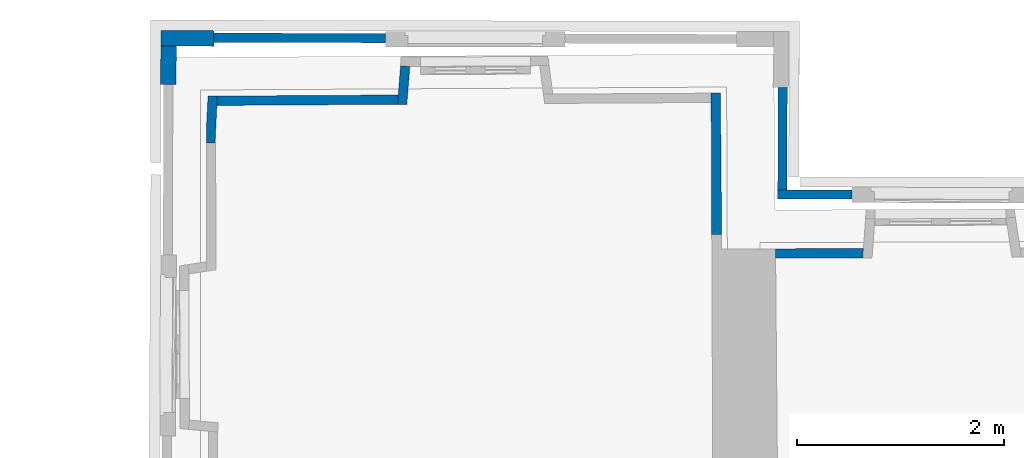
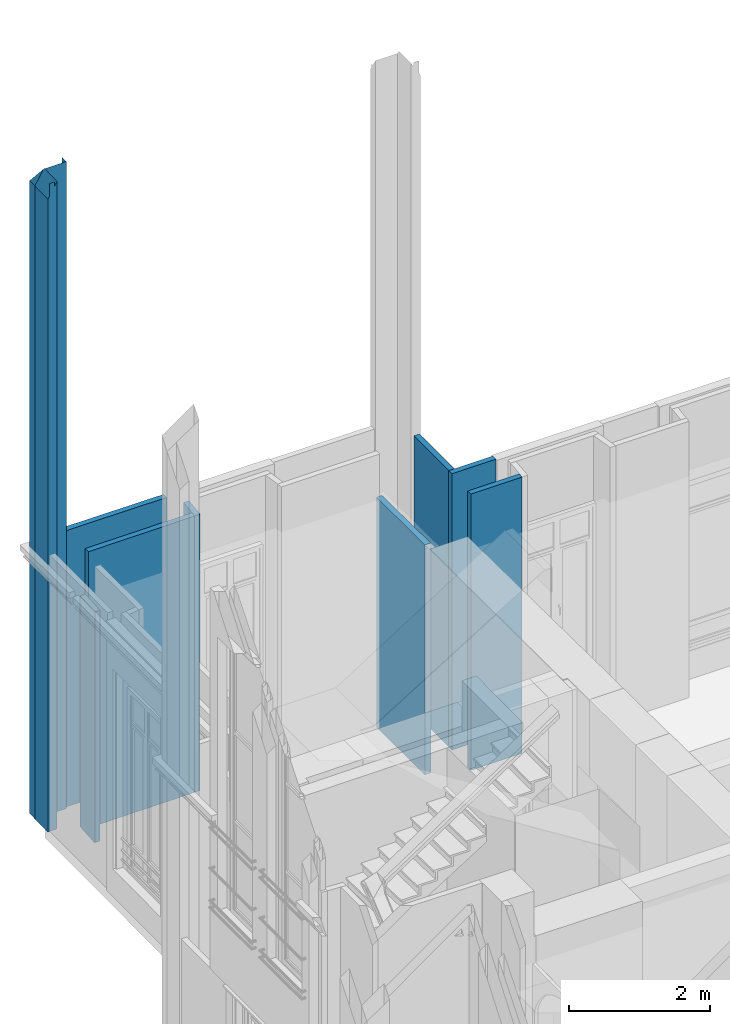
# One storey, part 20 of 97: 10 walls.
"""IFC2X3 building model written with IfcOpenShell, lengths in centimetres."""

from ifc_helpers import new_model, entity, si_unit, converted_unit, direction, frame, origin, origin_with_axes, place, context, subcontext, project, spatial, polyline, outline, extrude, clip, bounded_halfspace, material, layer, layer_set, layer_usage, type_object, element, save


model = new_model("IFC2X3")

# Units and contexts
model_context = context("Model", 3, precision=0.0001, world=origin(), true_north=direction((0.225632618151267, 0.974212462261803, 0.0)))
body_context = subcontext(model_context, "Body", "Model", "MODEL_VIEW")
ifc_project = project(units=[si_unit("LENGTHUNIT", "METRE", prefix="CENTI"), si_unit("AREAUNIT", "SQUARE_METRE", prefix="CENTI"), si_unit("VOLUMEUNIT", "CUBIC_METRE", prefix="CENTI"), converted_unit("PLANEANGLEUNIT", "DEGREE", entity("IfcRatioMeasure", 0.0174532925), si_unit("PLANEANGLEUNIT", "RADIAN"), dimensions=[0, 0, 0, 0, 0, 0, 0])], contexts=[model_context])

# Site, building, storey
site_placement = place(None, origin_with_axes())
site = spatial("IfcSite", under=ifc_project, at=site_placement, Name="Default Site", CompositionType="ELEMENT")
building_placement = place(site_placement, origin_with_axes())
building = spatial("IfcBuilding", under=site, at=building_placement, Name="Default Building", CompositionType="ELEMENT")
storey_placement = place(building_placement, origin_with_axes())
storey = spatial("IfcBuildingStorey", under=building, at=storey_placement, Name="Rez-de-chaussée", CompositionType="ELEMENT", Elevation=0.0)

# Walls
ifc_material = material(Name="<aucun>")
ifc_layer_1 = layer(ifc_material, 9.0)
ifc_layer_set_1 = layer_set([ifc_layer_1], Name="default")
ifc_layer_usage_1 = layer_usage(ifc_layer_set_1, "AXIS2", "POSITIVE", -4.5)
wall_type_1 = type_object("IfcWallType", Name="default 90", PredefinedType="NOTDEFINED", material=ifc_layer_set_1)
wall_1_placement = place(storey_placement, frame((-590.685725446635, 605.762074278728, 0.0128503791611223), z_axis=(0.0, 0.0, 1.0), x_axis=(-0.999999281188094, 0.00119900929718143, 0.0)))
element("IfcWallStandardCase", 1, at=wall_1_placement, inside=storey, type_object=wall_type_1, material=ifc_layer_usage_1, Name="Enveloppe 370249", context=body_context, shape_type="SweptSolid", body=[
    extrude(outline(polyline([(71.8533941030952, 4.50000000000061), (-0.0087640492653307, 4.4999999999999), (-0.0228247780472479, -4.4999999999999), (71.841638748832, -4.49999999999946), (71.8533941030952, 4.50000000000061)])), frame((0.0, 0.0, -2.71050543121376e-18), z_axis=(0.0, 0.0, 1.0), x_axis=(1.0, 0.0, 0.0)), (0.0, 0.0, 1.0), 477.795358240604),
])
ifc_layer_usage_2 = layer_usage(ifc_layer_set_1, "AXIS2", "POSITIVE", -4.5)
wall_2_placement = place(storey_placement, frame((-658.021901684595, 610.348691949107, 0.0128503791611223), z_axis=(0.0, 0.0, 1.0), x_axis=(0.00250515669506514, 0.999996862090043, 0.0)))
element("IfcWallStandardCase", 2, at=wall_2_placement, inside=storey, type_object=wall_type_1, material=ifc_layer_usage_2, Name="Enveloppe 370373", context=body_context, shape_type="SweptSolid", body=[
    extrude(outline(polyline([(-0.0117508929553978, 4.49821915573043), (3.90259211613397e-06, -4.50155781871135), (98.999714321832, -4.4999999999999), (99.0282439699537, 4.50000000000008), (-0.0117508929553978, 4.49821915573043)])), frame((0.0, 0.0, -2.71050543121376e-18), z_axis=(0.0, 0.0, 1.0), x_axis=(1.0, 0.0, 0.0)), (0.0, 0.0, 1.0), 477.795358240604),
])
ifc_layer_usage_3 = layer_usage(ifc_layer_set_1, "AXIS2", "POSITIVE", -4.5)
wall_3_placement = place(storey_placement, frame((-1041.53787369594, 756.996836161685, 0.0128503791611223), z_axis=(0.0, 0.0, 1.0), x_axis=(-0.999997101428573, 0.00240772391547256, 0.0)))
element("IfcWallStandardCase", 3, at=wall_3_placement, inside=storey, type_object=wall_type_1, material=ifc_layer_usage_3, Name="Enveloppe 370541", context=body_context, shape_type="SweptSolid", body=[
    extrude(outline(polyline([(166.17782327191, 4.49999999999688), (-0.0142199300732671, 4.50000000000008), (3.5527136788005e-13, -4.49999999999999), (166.130672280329, -4.50000000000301), (166.17782327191, 4.49999999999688)])), frame((0.0, 0.0, -2.71050543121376e-18), z_axis=(0.0, 0.0, 1.0), x_axis=(1.0, 0.0, 0.0)), (0.0, 0.0, 1.0), 477.795358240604),
])
ifc_layer_usage_4 = layer_usage(ifc_layer_set_1, "AXIS2", "POSITIVE", -4.5)
wall_4_placement = place(storey_placement, frame((-664.584790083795, 548.803816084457, 0.0128503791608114), z_axis=(0.0, 0.0, 1.0), x_axis=(0.9999931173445, 0.00371015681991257, 0.0)))
element("IfcWallStandardCase", 4, at=wall_4_placement, inside=storey, type_object=wall_type_1, material=ifc_layer_usage_4, Name="Enveloppe 668703", context=body_context, shape_type="Clipping", body=[
    clip(extrude(outline(polyline([(-0.045084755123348, 4.49999999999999), (-8.88178419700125e-14, -4.49999999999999), (84.2755813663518, -4.50000000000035), (84.9431993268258, 4.49999999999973), (-0.045084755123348, 4.49999999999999)])), frame((0.0, 0.0, -2.71050543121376e-18), z_axis=(0.0, 0.0, 1.0), x_axis=(1.0, 0.0, 0.0)), (0.0, 0.0, 1.0), 477.795358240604), bounded_halfspace(frame((-8.88178419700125e-14, -4.49999999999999, 399.097180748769), z_axis=(0.0, 0.0, -1.0), x_axis=(9.90570472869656e-15, 1.0, 0.0)), True, frame((-8.88178419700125e-14, -4.49999999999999, 399.097180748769), z_axis=(0.0, 0.0, 1.0), x_axis=(1.0, 0.0, 0.0)), polyline([(-0.045084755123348, 9.00000000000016), (-8.88178419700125e-14, 0.0), (0.0, 9.00000000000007), (-0.045084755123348, 9.00000000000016)]))),
])
ifc_layer_usage_5 = layer_usage(ifc_layer_set_1, "AXIS2", "POSITIVE", -4.5)
wall_5_placement = place(storey_placement, frame((-1025.64186770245, 693.424140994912, 0.0128503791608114), z_axis=(0.0, 0.0, 1.0), x_axis=(0.0804796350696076, 0.996756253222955, 0.0)))
element("IfcWallStandardCase", 5, at=wall_5_placement, inside=storey, type_object=wall_type_1, material=ifc_layer_usage_5, Name="Enveloppe 666600", context=body_context, shape_type="SweptSolid", body=[
    extrude(outline(polyline([(-0.782771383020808, 4.50000000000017), (-0.00196885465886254, -4.49999999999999), (36.651232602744, -4.49999999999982), (36.651232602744, 4.50000000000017), (-0.782771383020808, 4.50000000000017)])), frame((0.0, 0.0, -2.71050543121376e-18), z_axis=(0.0, 0.0, 1.0), x_axis=(1.0, 0.0, 0.0)), (0.0, 0.0, 1.0), 477.795358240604),
])
ifc_layer_usage_6 = layer_usage(ifc_layer_set_1, "AXIS2", "POSITIVE", -4.5)
wall_6_placement = place(storey_placement, frame((-1204.81216846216, 696.463224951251, 0.0128503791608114), z_axis=(0.0, 0.0, 1.0), x_axis=(0.999982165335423, 0.00597235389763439, 0.0)))
element("IfcWallStandardCase", 6, at=wall_6_placement, inside=storey, type_object=wall_type_1, material=ifc_layer_usage_6, Name="Enveloppe 666959", context=body_context, shape_type="Clipping", body=[
    clip(extrude(outline(polyline([(0.0, 4.50000000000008), (1.77635683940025e-13, -4.50000000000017), (174.59813877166, -4.49999999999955), (175.378941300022, 4.50000000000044), (0.0, 4.50000000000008)])), frame((0.0, 0.0, -5.42101086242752e-18), z_axis=(0.0, 0.0, 1.0), x_axis=(1.0, 0.0, 0.0)), (0.0, 0.0, 1.0), 477.795358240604), bounded_halfspace(frame((0.0, 4.50000000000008, 399.097180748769), z_axis=(0.0, 0.0, 1.0), x_axis=(1.0, -4.58279247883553e-14, 0.0)), True, frame((0.0, 4.50000000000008, 399.097180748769), z_axis=(0.0, 0.0, 1.0), x_axis=(1.0, 0.0, 0.0)), polyline([(3.5527136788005e-13, -9.00000000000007), (0.0, 8.88178419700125e-14), (0.500054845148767, 8.88178419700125e-14), (3.5527136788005e-13, -9.00000000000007)]))),
])
ifc_layer_usage_7 = layer_usage(ifc_layer_set_1, "AXIS2", "POSITIVE", -4.5)
wall_7_placement = place(storey_placement, frame((-721.270329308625, 567.250231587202, 0.0128503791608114), z_axis=(0.0, 0.0, 1.0), x_axis=(-0.00871943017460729, 0.999961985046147, 0.0)))
element("IfcWallStandardCase", 7, at=wall_7_placement, inside=storey, type_object=wall_type_1, material=ifc_layer_usage_7, Name="Enveloppe 2545", context=body_context, shape_type="SweptSolid", body=[
    extrude(outline(polyline([(136.611449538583, 4.50000000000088), (126.511649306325, 4.50000000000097), (0.0, 5.06528483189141), (8.88178419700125e-14, -4.49999999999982), (136.586725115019, -4.49999999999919), (136.611449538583, 4.50000000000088)])), origin_with_axes(), (0.0, 0.0, 1.0), 397.695358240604),
])
ifc_layer_usage_8 = layer_usage(ifc_layer_set_1, "AXIS2", "POSITIVE", -4.5)
wall_8_placement = place(storey_placement, frame((-1211.07100748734, 656.052666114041, 0.0128503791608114), z_axis=(0.0, 0.0, 1.0), x_axis=(0.0495119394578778, 0.998773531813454, 0.0)))
element("IfcWallStandardCase", 8, at=wall_8_placement, inside=storey, type_object=wall_type_1, material=ifc_layer_usage_8, Name="Enveloppe 2590", context=body_context, shape_type="SweptSolid", body=[
    extrude(outline(polyline([(10.6992295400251, 4.49999999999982), (-0.441833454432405, 3.91518555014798), (-0.000105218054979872, -4.50000000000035), (45.1916949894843, -4.50000000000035), (44.6916401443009, 4.49999999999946), (10.6992295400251, 4.49999999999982)])), origin_with_axes(), (0.0, 0.0, 1.0), 399.097180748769),
])
ifc_layer_2 = layer(ifc_material, 15.0)
ifc_layer_set_2 = layer_set([ifc_layer_2], Name="default")
ifc_layer_usage_9 = layer_usage(ifc_layer_set_2, "AXIS2", "POSITIVE", -7.5)
wall_type_2 = type_object("IfcWallType", Name="default 150", PredefinedType="NOTDEFINED", material=ifc_layer_set_2)
wall_9_placement = place(storey_placement, frame((-1207.69734952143, 756.650219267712, 0.0128503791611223), z_axis=(0.0, 0.0, 1.0), x_axis=(-0.999970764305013, 0.0076466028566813, 0.0)))
solid_1 = clip(clip(clip(clip(clip(clip(clip(clip(extrude(outline(polyline([(51.2234731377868, 7.50000000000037), (1.77635683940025e-13, 7.49999999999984), (-0.00395006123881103, 3.75358004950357), (-0.0999986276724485, 3.75284558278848), (-0.0734232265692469, -1.31976481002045), (-0.123241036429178, -4.95749996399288), (-0.0543601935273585, -4.95844326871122), (-0.0528482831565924, -5.24703090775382), (-9.72997860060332e-07, -5.24662679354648), (3.5527136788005e-13, -7.50000000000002), (51.2314853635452, -7.49999999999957), (51.2234731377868, 7.50000000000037)])), origin_with_axes(), (0.0, 0.0, 1.0), 1118.84167567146), bounded_halfspace(frame((-0.0528482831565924, -5.24703090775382, 477.795358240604), z_axis=(0.0, 0.0, 1.0), x_axis=(-0.00523892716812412, 0.999986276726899, 0.0)), True, frame((-0.0528482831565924, -5.24703090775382, 477.795358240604), z_axis=(0.0, 0.0, 1.0), x_axis=(1.0, 0.0, 0.0)), polyline([(-1.77635683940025e-13, -8.88178419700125e-14), (-0.00151191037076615, 0.288587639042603), (0.0528482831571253, 0.287843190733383), (0.0528482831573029, 0.000276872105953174), (-1.77635683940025e-13, -8.88178419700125e-14)]))), bounded_halfspace(frame((0.0, 3.75336947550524, 477.795358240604), z_axis=(0.0, 0.0, 1.0), x_axis=(6.13935985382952e-14, -1.0, 0.0)), True, frame((0.0, 3.75336947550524, 477.795358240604), z_axis=(0.0, 0.0, 1.0), x_axis=(1.0, 0.0, 0.0)), polyline([(-0.0734232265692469, -5.07313428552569), (0.0, -8.88178419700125e-14), (5.32907051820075e-13, -8.71255719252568), (-0.0543601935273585, -8.71181274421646), (-0.0734232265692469, -5.07313428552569)]))), bounded_halfspace(frame((-0.0999986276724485, 3.75284558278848, 477.795358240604), z_axis=(0.0, 0.0, 1.0), x_axis=(0.999986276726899, 0.00523892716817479, 0.0)), True, frame((-0.0999986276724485, 3.75284558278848, 477.795358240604), z_axis=(0.0, 0.0, 1.0), x_axis=(1.0, 0.0, 0.0)), polyline([(0.0, 0.0), (0.0960503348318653, 0.000503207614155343), (0.0265754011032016, -5.07261039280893), (0.0, 0.0)]))), bounded_halfspace(frame((-0.00394829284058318, 3.75334879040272, 853.897523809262), z_axis=(0.0, 0.0, 1.0), x_axis=(0.0136934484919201, 0.999906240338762, 0.0)), True, frame((-0.00394829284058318, 3.75334879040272, 853.897523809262), z_axis=(0.0, 0.0, 1.0), x_axis=(1.0, 0.0, 0.0)), polyline([(0.0, -8.88178419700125e-14), (0.00394829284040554, 0.288307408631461), (0.0, -8.88178419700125e-14)]))), bounded_halfspace(frame((-0.0543601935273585, -4.95844326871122, 853.897523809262), z_axis=(0.0, 0.0, 1.0), x_axis=(-0.999906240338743, 0.0136934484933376, 0.0)), True, frame((-0.0543601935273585, -4.95844326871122, 853.897523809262), z_axis=(0.0, 0.0, 1.0), x_axis=(1.0, 0.0, 0.0)), polyline([(-0.0688808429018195, 0.000943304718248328), (-0.0190630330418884, 3.63867845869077), (0.0, 0.0), (-0.0688808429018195, 0.000943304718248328)]))), bounded_halfspace(frame((37.1340790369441, 7.50000000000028, 1118.62691619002), z_axis=(-0.863508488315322, -0.00428678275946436, -0.504316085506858), x_axis=(0.446662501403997, -0.470841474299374, -0.760789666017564)), True, frame((37.1340790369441, 7.50000000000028, 1118.62691619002), z_axis=(0.0, 0.0, 1.0), x_axis=(1.0, 0.0, 0.0)), polyline([(0.0, -8.88178419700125e-14), (11.3642532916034, -11.9794291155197), (11.3103931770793, 0.0), (0.0, -8.88178419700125e-14)]))), bounded_halfspace(frame((48.9828103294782, -4.99013313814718, 1098.44523965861), z_axis=(-0.00305109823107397, 0.849520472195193, -0.527546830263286), x_axis=(-9.74827857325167e-15, -0.527549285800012, -0.84952442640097)), True, frame((48.9828103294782, -4.99013313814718, 1098.44523965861), z_axis=(0.0, 0.0, 1.0), x_axis=(1.0, 0.0, 0.0)), polyline([(-48.9828103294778, -2.50986686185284), (2.24867503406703, -2.50986686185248), (2.24860046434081, -2.37026197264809), (0.0, -8.88178419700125e-14), (-48.9828103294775, -0.256620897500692), (-48.9828103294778, -2.50986686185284)]))), bounded_halfspace(frame((48.4983323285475, -4.47942911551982, 1099.27045255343), z_axis=(-0.863508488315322, -0.00428678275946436, -0.504316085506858), x_axis=(0.446674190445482, -0.470797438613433, -0.760810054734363)), True, frame((48.4983323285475, -4.47942911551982, 1099.27045255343), z_axis=(0.0, 0.0, 1.0), x_axis=(1.0, 0.0, 0.0)), polyline([(-0.0538601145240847, 11.9794291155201), (1.77635683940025e-13, -8.88178419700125e-14), (0.48453570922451, -0.510703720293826), (2.73180610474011, -0.49893027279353), (2.72514080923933, 11.9794291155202), (-0.0538601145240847, 11.9794291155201)])))
element("IfcWallStandardCase", 9, at=wall_9_placement, inside=storey, type_object=wall_type_2, material=ifc_layer_usage_9, Name="Enveloppe 374149", context=body_context, shape_type="Clipping", body=[
    clip(clip(clip(clip(clip(clip(clip(clip(solid_1, bounded_halfspace(frame((1.77635683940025e-13, 7.49999999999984, 1118.84167567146), z_axis=(-0.00305109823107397, 0.849520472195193, -0.527546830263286), x_axis=(9.2374025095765e-14, -0.527549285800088, -0.849524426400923)), True, frame((1.77635683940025e-13, 7.49999999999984, 1118.84167567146), z_axis=(0.0, 0.0, 1.0), x_axis=(1.0, 0.0, 0.0)), polyline([(5.32907051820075e-13, -12.7467540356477), (48.5006398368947, -12.4926592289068), (48.4983323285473, -11.9794291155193), (37.1340790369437, 3.5527136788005e-13), (0.0, -8.88178419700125e-14), (5.32907051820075e-13, -12.7467540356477)]))), bounded_halfspace(frame((48.9828103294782, -4.99013313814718, 1098.44525264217), z_axis=(-0.863508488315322, -0.00428678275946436, -0.504316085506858), x_axis=(-0.000534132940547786, 0.999971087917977, -0.00758538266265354)), True, frame((48.9828103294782, -4.99013313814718, 1098.44525264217), z_axis=(0.0, 0.0, 1.0), x_axis=(1.0, 0.0, 0.0)), polyline([(0.0, -8.88178419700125e-14), (2.24860046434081, -2.37026197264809), (2.24732810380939, 0.0117737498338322), (0.0, -8.88178419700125e-14)]))), bounded_halfspace(frame((48.4983323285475, -4.47942911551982, 1099.27043978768), z_axis=(-0.00305109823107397, 0.849520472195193, -0.527546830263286), x_axis=(0.00237185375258, -0.5275416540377, -0.849525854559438)), True, frame((48.4983323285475, -4.47942911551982, 1099.27043978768), z_axis=(0.0, 0.0, 1.0), x_axis=(1.0, 0.0, 0.0)), polyline([(0.00230750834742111, -0.513230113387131), (0.48453570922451, -0.510703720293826), (1.77635683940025e-13, -8.88178419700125e-14), (0.00230750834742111, -0.513230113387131)]))), bounded_halfspace(frame((-0.0543601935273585, -4.95844326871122, 1098.77987993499), z_axis=(-0.00305109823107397, 0.849520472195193, -0.527546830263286), x_axis=(1.07349025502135e-13, 0.527549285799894, 0.849524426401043)), True, frame((-0.0543601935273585, -4.95844326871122, 1098.77987993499), z_axis=(0.0, 0.0, 1.0), x_axis=(1.0, 0.0, 0.0)), polyline([(0.00151191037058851, -0.288587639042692), (0.0543601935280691, -0.28831076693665), (0.0543601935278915, -0.000744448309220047), (0.0, 0.0), (0.00151191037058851, -0.288587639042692)]))), bounded_halfspace(frame((0.0, 3.75336947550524, 1112.8083926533), z_axis=(-0.00305109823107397, 0.849520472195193, -0.527546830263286), x_axis=(-0.00722471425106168, -0.52755424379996, -0.849490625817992)), True, frame((0.0, 3.75336947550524, 1112.8083926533), z_axis=(0.0, 0.0, 1.0), x_axis=(1.0, 0.0, 0.0)), polyline([(-0.0734232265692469, -5.07313428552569), (-0.0543601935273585, -8.71181274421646), (5.32907051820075e-13, -8.71255719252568), (-0.00394829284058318, -2.06851026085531e-05), (-0.0734232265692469, -5.07313428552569)]))), bounded_halfspace(frame((-0.0734232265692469, -1.31976481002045, 853.897523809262), z_axis=(0.0, 0.0, -1.0), x_axis=(0.0136934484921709, 0.999906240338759, 0.0)), True, frame((-0.0734232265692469, -1.31976481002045, 853.897523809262), z_axis=(0.0, 0.0, 1.0), x_axis=(1.0, 0.0, 0.0)), polyline([(-0.0265754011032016, 5.07261039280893), (0.0, 0.0), (0.0694749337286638, 5.07311360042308), (-0.0265754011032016, 5.07261039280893)]))), bounded_halfspace(frame((-1.77635683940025e-13, 4.04165619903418, 1113.27262721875), z_axis=(-0.00305109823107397, 0.849520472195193, -0.527546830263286), x_axis=(-9.2374025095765e-14, 0.527549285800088, 0.849524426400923)), True, frame((-1.77635683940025e-13, 4.04165619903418, 1113.27262721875), z_axis=(0.0, 0.0, 1.0), x_axis=(1.0, 0.0, 0.0)), polyline([(1.77635683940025e-13, -0.28828672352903), (0.0, 0.0), (1.77635683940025e-13, -0.28828672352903)]))), bounded_halfspace(frame((-0.0734232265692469, -1.31976481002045, 1104.63943557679), z_axis=(-0.00305109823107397, 0.849520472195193, -0.527546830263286), x_axis=(-0.00722471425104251, -0.527554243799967, -0.849490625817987)), True, frame((-0.0734232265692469, -1.31976481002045, 1104.63943557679), z_axis=(0.0, 0.0, 1.0), x_axis=(1.0, 0.0, 0.0)), polyline([(-0.0498178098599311, -3.63773515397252), (0.0190630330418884, -3.63867845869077), (0.0, 0.0), (-0.0498178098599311, -3.63773515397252)]))),
])
ifc_layer_usage_10 = layer_usage(ifc_layer_set_2, "AXIS2", "POSITIVE", -7.5)
wall_10_placement = place(storey_placement, frame((-1251.74110331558, 712.338207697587, 0.0128503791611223), z_axis=(0.0, 0.0, 1.0), x_axis=(0.00711246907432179, 0.999974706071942, 0.0)))
solid_2 = clip(clip(clip(clip(clip(clip(clip(clip(extrude(outline(polyline([(8.88178419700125e-14, 7.50000000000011), (1.75903407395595e-06, 5.46144779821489), (-0.0999954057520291, 5.46073655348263), (-0.0824590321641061, 3.63136209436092), (-0.0999997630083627, -4.42549370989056), (1.77635683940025e-13, -4.42571142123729), (8.88178419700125e-14, -7.49999999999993), (37.1435003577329, -7.50000000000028), (37.1515125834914, 7.50000000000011), (8.88178419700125e-14, 7.50000000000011)])), frame((0.0, 0.0, -2.71050543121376e-18), z_axis=(0.0, 0.0, 1.0), x_axis=(1.0, 0.0, 0.0)), (0.0, 0.0, 1.0), 1120.1788071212), bounded_halfspace(frame((-0.0999997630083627, -4.42549370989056, 477.795358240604), z_axis=(0.0, 0.0, 1.0), x_axis=(0.00217711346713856, 0.999997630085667, 0.0)), True, frame((-0.0999997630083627, -4.42549370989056, 477.795358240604), z_axis=(0.0, 0.0, 1.0), x_axis=(1.0, 0.0, 0.0)), polyline([(0.0, 0.0), (0.00192856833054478, 0.885835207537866), (0.0999997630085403, 0.886775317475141), (0.0999997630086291, -0.000217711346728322), (0.0, 0.0)]))), bounded_halfspace(frame((8.88178419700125e-14, -3.53871839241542, 477.795358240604), z_axis=(0.0, 0.0, 1.0), x_axis=(-0.999954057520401, -0.00958555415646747, 0.0)), True, frame((8.88178419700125e-14, -3.53871839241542, 477.795358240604), z_axis=(0.0, 0.0, 1.0), x_axis=(1.0, 0.0, 0.0)), polyline([(-0.0804057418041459, 8.11320335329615), (0.0, 8.11302830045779), (8.88178419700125e-14, 0.0), (-0.0137254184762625, -0.000131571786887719), (-0.0804057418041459, 8.11320335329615)]))), bounded_halfspace(frame((-0.0137254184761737, -3.53884996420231, 477.795358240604), z_axis=(0.0, 0.0, 1.0), x_axis=(-0.999954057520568, -0.00958555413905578, 0.0)), True, frame((-0.0137254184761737, -3.53884996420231, 477.795358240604), z_axis=(0.0, 0.0, 1.0), x_axis=(1.0, 0.0, 0.0)), polyline([(-0.0843457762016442, -0.000808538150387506), (-0.0687336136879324, 7.17021205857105), (0.0, 0.0), (-0.0843457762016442, -0.000808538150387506)]))), bounded_halfspace(frame((-0.0824590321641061, 3.63136209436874, 477.795358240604), z_axis=(0.0, 0.0, 1.0), x_axis=(-0.00958555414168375, 0.999954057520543, 0.0)), True, frame((-0.0824590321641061, 3.63136209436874, 477.795358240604), z_axis=(0.0, 0.0, 1.0), x_axis=(1.0, 0.0, 0.0)), polyline([(0.0, 0.0), (-0.0090410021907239, 0.943147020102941), (0.00205329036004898, 0.943122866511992), (0.0, 0.0)]))), bounded_halfspace(frame((-0.0999954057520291, 5.46073655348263, 853.897523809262), z_axis=(0.0, 0.0, 1.0), x_axis=(0.999954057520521, 0.00958555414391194, 0.0)), True, frame((-0.0999954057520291, 5.46073655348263, 853.897523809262), z_axis=(0.0, 0.0, 1.0), x_axis=(1.0, 0.0, 0.0)), polyline([(0.00849537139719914, -0.886227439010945), (0.0, 0.0), (0.0999954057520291, 0.000958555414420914), (0.099995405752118, -0.886426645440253), (0.00849537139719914, -0.886227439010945)]))), bounded_halfspace(frame((-0.0824590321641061, 3.63136209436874, 853.897523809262), z_axis=(0.0, 0.0, 1.0), x_axis=(-0.00958555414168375, 0.999954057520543, 0.0)), True, frame((-0.0824590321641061, 3.63136209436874, 853.897523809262), z_axis=(0.0, 0.0, 1.0), x_axis=(1.0, 0.0, 0.0)), polyline([(0.0, 0.0), (-0.0090410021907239, 0.943147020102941), (0.00205329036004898, 0.943122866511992), (0.0, 0.0)]))), bounded_halfspace(frame((36.1830578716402, -7.50000000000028, 1120.1788071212), z_axis=(0.00382554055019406, -0.863510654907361, -0.504316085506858), x_axis=(-3.1788807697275e-15, -0.504319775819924, 0.863516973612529)), True, frame((36.1830578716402, -7.50000000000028, 1120.1788071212), z_axis=(0.0, 0.0, 1.0), x_axis=(1.0, 0.0, 0.0)), polyline([(-36.1830578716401, 3.5527136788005e-13), (0.0, 0.0), (0.96092888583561, 0.910607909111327), (0.966970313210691, 12.2209994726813), (-36.1830578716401, 12.0743099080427), (-36.1830578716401, 3.5527136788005e-13)]))), bounded_halfspace(frame((37.1500281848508, 4.72099947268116, 1099.26084638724), z_axis=(0.00382554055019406, -0.863510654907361, -0.504316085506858), x_axis=(-2.77594787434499e-14, -0.504319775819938, 0.863516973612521)), True, frame((37.1500281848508, 4.72099947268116, 1099.26084638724), z_axis=(0.0, 0.0, 1.0), x_axis=(1.0, 0.0, 0.0)), polyline([(-37.1500281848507, -0.146689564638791), (8.88178419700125e-14, -1.77635683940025e-13), (0.00148439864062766, 2.77900052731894), (-37.1500281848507, 2.77900052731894), (-37.1500281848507, -0.146689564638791)])))
element("IfcWallStandardCase", 10, at=wall_10_placement, inside=storey, type_object=wall_type_2, material=ifc_layer_usage_10, Name="Enveloppe 374192", context=body_context, shape_type="Clipping", body=[
    clip(clip(clip(clip(clip(clip(clip(solid_2, bounded_halfspace(frame((36.1830578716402, -7.50000000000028, 1120.17879987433), z_axis=(-0.849521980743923, -0.00259732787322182, -0.527546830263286), x_axis=(0.527548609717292, -1.91253263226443e-14, -0.849524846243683)), True, frame((36.1830578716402, -7.50000000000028, 1120.17879987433), z_axis=(0.0, 0.0, 1.0), x_axis=(1.0, 0.0, 0.0)), polyline([(0.0, 0.0), (0.960442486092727, 0.0), (0.96092888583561, 0.910607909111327), (0.0, 0.0)]))), bounded_halfspace(frame((1.77635683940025e-13, -4.42571142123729, 1114.6404140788), z_axis=(0.00382554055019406, -0.863510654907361, -0.504316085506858), x_axis=(-4.99123312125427e-14, 0.504319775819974, -0.8635169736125)), True, frame((1.77635683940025e-13, -4.42571142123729, 1114.6404140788), z_axis=(0.0, 0.0, 1.0), x_axis=(1.0, 0.0, 0.0)), polyline([(-0.0999997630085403, 0.000217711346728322), (8.88178419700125e-14, 0.0), (0.0, 0.88699302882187), (-0.0980711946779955, 0.886052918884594), (-0.0999997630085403, 0.000217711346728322)]))), bounded_halfspace(frame((-0.0137254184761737, -3.53884996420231, 1113.1217894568), z_axis=(0.00382554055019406, -0.863510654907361, -0.504316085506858), x_axis=(-0.999933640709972, 0.00217697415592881, -0.0113126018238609)), True, frame((-0.0137254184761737, -3.53884996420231, 1113.1217894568), z_axis=(0.0, 0.0, 1.0), x_axis=(1.0, 0.0, 0.0)), polyline([(0.0, 0.0), (0.0137254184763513, 0.000131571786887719), (0.0137254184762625, 8.11315987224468), (-0.0666803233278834, 8.11333492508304), (0.0, 0.0)]))), bounded_halfspace(frame((-0.0824590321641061, 3.63136209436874, 853.897523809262), z_axis=(0.0, 0.0, -1.0), x_axis=(-0.00217711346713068, -0.999997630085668, 0.0)), True, frame((-0.0824590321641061, 3.63136209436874, 853.897523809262), z_axis=(0.0, 0.0, 1.0), x_axis=(1.0, 0.0, 0.0)), polyline([(-0.0156121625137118, -7.17102059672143), (0.0687336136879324, -7.17021205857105), (0.0, 0.0), (-0.0156121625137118, -7.17102059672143)]))), bounded_halfspace(frame((8.88178419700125e-14, 4.57430990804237, 1099.23020898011), z_axis=(0.00382554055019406, -0.863510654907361, -0.504316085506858), x_axis=(0.999933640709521, -0.00217697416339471, 0.0113126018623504)), True, frame((8.88178419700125e-14, 4.57430990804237, 1099.23020898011), z_axis=(0.0, 0.0, 1.0), x_axis=(1.0, 0.0, 0.0)), polyline([(-0.0915000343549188, 0.000199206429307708), (0.0, 0.0), (-8.88178419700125e-14, 0.887385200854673), (-0.099995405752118, 0.886426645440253), (-0.0915000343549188, 0.000199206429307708)]))), bounded_halfspace(frame((-0.0824590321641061, 3.63136209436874, 1100.84413734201), z_axis=(0.00382554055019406, -0.863510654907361, -0.504316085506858), x_axis=(-0.999933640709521, 0.00217697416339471, -0.0113126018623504)), True, frame((-0.0824590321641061, 3.63136209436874, 1100.84413734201), z_axis=(0.0, 0.0, 1.0), x_axis=(1.0, 0.0, 0.0)), polyline([(0.0, 0.0), (0.00205329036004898, 0.943122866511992), (-0.0090410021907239, 0.943147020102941), (0.0, 0.0)]))), bounded_halfspace(frame((-0.0980711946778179, -3.53965850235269, 1113.12253405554), z_axis=(0.00382554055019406, -0.863510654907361, -0.504316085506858), x_axis=(-0.00109797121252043, -0.504323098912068, 0.863514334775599)), True, frame((-0.0980711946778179, -3.53965850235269, 1113.12253405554), z_axis=(0.0, 0.0, 1.0), x_axis=(1.0, 0.0, 0.0)), polyline([(0.0, 0.0), (0.0843457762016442, 0.000808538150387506), (0.0156121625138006, 7.17102059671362), (0.0, 0.0)]))),
])

save(model, "model.ifc")
